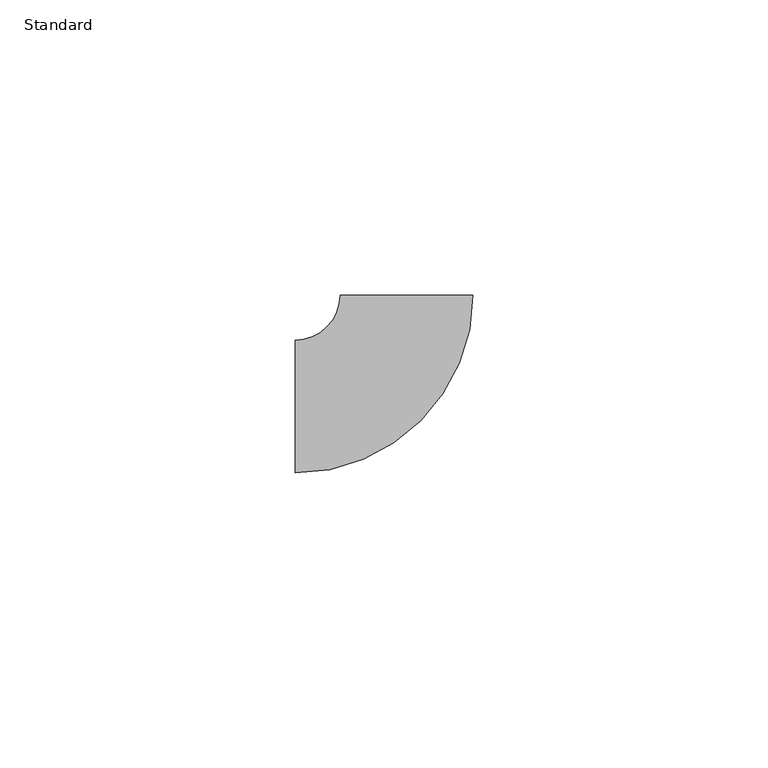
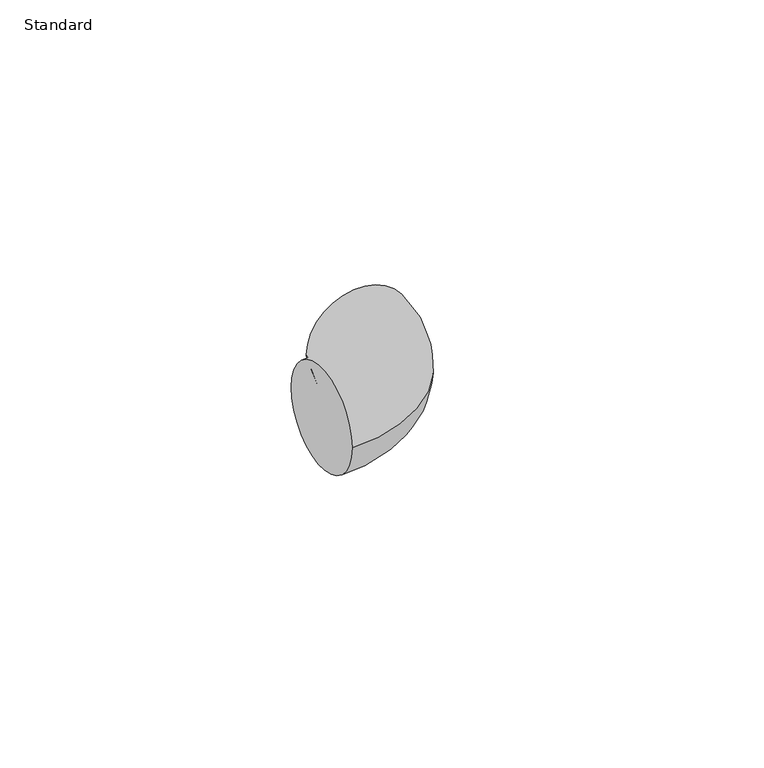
"""IFC4 building model written with IfcOpenShell, lengths in millimetres: pipe fitting geometry, Coude - Générique1 : Standard."""

from ifc_helpers import new_model, si_unit, point, frame, origin, place, context, project, spatial, circle_curve, ellipse_curve, trimmed, source, transform, mapped, element, save
from ifc_brep_helpers import plane_surface, revolved_surface, advanced_brep


def standard_59e20ca0(model_context):
    return source(origin(), model_context, "Body", "AdvancedBrep", [
        advanced_brep(
        [(-18.9117187, -11.25, 0.0), (-18.9117187, 11.25, 0.0), (11.2502992, 18.9115407, 0.0), (-11.2497008, 18.9118968, 0.0)],
        [
            (0, 1, circle_curve(frame((-18.9117187, 0.0, 0.0), z_axis=(-1.0, 0.0, 0.0), x_axis=(0.0, 1.0, 0.0)), 11.25)),
            (1, 0, circle_curve(frame((-18.9117187, 0.0, 0.0), z_axis=(-1.0, 0.0, 0.0), x_axis=(0.0, 1.0, 0.0)), 11.25)),
            (2, 3, circle_curve(frame((0.0002992, 18.9117187, 0.0), z_axis=(1.5822505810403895e-05, 0.9999999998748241, 0.0), x_axis=(-0.9999999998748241, 1.5822505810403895e-05, 0.0)), 11.25)),
            (3, 2, circle_curve(frame((0.0002992, 18.9117187, 0.0), z_axis=(1.5822505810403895e-05, 0.9999999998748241, 0.0), x_axis=(-0.9999999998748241, 1.5822505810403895e-05, 0.0)), 11.25)),
            (3, 1, circle_curve(frame((-18.9117187, 18.912018, 0.0), z_axis=(0.0, 0.0, -1.0), x_axis=(0.0, -1.0, 0.0)), 7.662018)),
            (0, 2, circle_curve(frame((-18.9117187, 18.912018, 0.0), z_axis=(0.0, 0.0, 1.0), x_axis=(0.0, -1.0, 0.0)), 30.162018)),
        ],
        [
            plane_surface(frame((-18.9117187, 0.0, 0.0), z_axis=(-1.0, 0.0, 0.0), x_axis=(0.0, 0.0, 1.0))),
            plane_surface(frame((0.0002992, 18.9117187, 0.0), z_axis=(1.5822505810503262e-05, 0.9999999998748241, 0.0), x_axis=(0.0, 0.0, 1.0))),
            revolved_surface(trimmed(ellipse_curve(frame((-18.9117187, 0.0, 0.0), z_axis=(-1.0, 0.0, 0.0), x_axis=(0.0, 1.0, 0.0)), 11.25, 11.25), [point((-18.9117187, -11.25, 0.0))], [point((-18.9117187, 11.25, 0.0))], True, "CARTESIAN"), (-18.9117187, 18.912018, 0.0), (0.0, 0.0, 1.0)),
            revolved_surface(trimmed(ellipse_curve(frame((-18.9117187, 0.0, 0.0), z_axis=(-1.0, 0.0, 0.0), x_axis=(0.0, 1.0, 0.0)), 11.25, 11.25), [point((-18.9117187, 11.25, 0.0))], [point((-18.9117187, -11.25, 0.0))], True, "CARTESIAN"), (-18.9117187, 18.912018, 0.0), (0.0, 0.0, 1.0)),
        ],
        [
            (0, [[1, 2]]),
            (1, [[3, 4]]),
            (2, [[5, -1, 6, -4]]),
            (3, [[-6, -2, -5, -3]]),
        ],
    ),
    ])


if __name__ == "__main__":
    model = new_model("IFC4")
    model_context = context("Model", 3, world=origin())
    ifc_project = project(units=[si_unit("LENGTHUNIT", "METRE", prefix="MILLI")], contexts=[model_context])
    site = spatial("IfcSite", under=ifc_project)
    building = spatial("IfcBuilding", under=site)
    placement = place(None, origin())
    standard_shape = standard_59e20ca0(model_context)
    element("IfcPipeFitting", 1, ObjectType="Coude - Générique1 : Standard", at=placement, inside=building, context=model_context, shape_type="MappedRepresentation", body=[
        mapped(standard_shape, transform((0.0, 0.0, 0.0), x_axis=(1.0, 0.0, 0.0), y_axis=(0.0, 1.0, 0.0), z_axis=(0.0, 0.0, 1.0))),
    ])
    save(model, "model.ifc")
